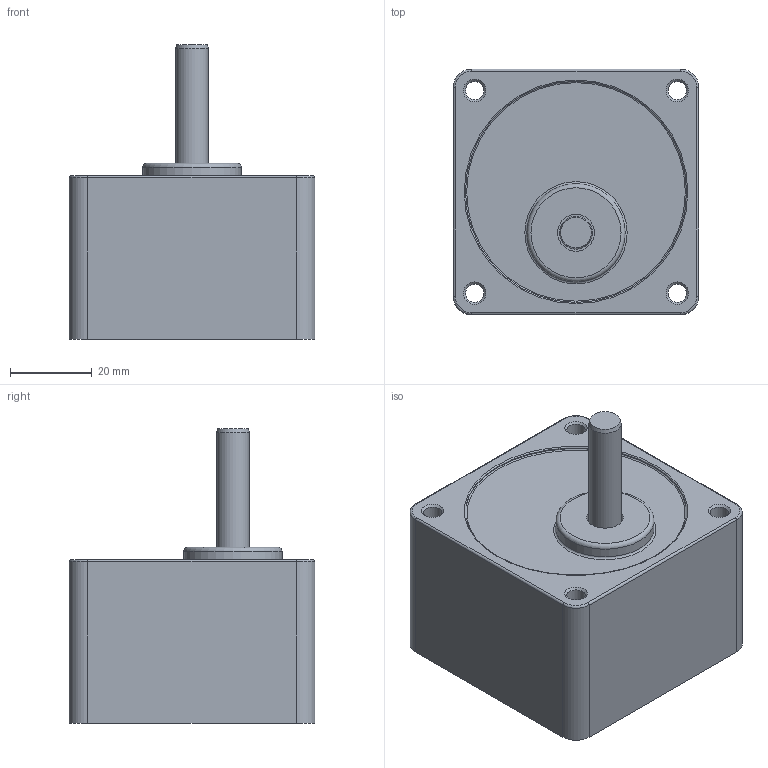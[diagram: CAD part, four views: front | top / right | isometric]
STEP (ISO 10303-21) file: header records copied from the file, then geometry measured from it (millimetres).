
FILE_DESCRIPTION((''),'2;1');
FILE_NAME('\\Spgrnd02\고객배포용도면\3D\01 Standard AC Motor\01 INDUCTION MOTOR\S6I06+S6DA\S6SA20~250.stp','2015-03-24T16:01:07',('smkim'),(''),'Autodesk Inventor 2012','Autodesk Inventor 2012','');
FILE_SCHEMA(('AUTOMOTIVE_DESIGN { 1 0 10303 214 1 1 1 1 }'));
Length unit declared in the file: millimetre
Products named in the file (1): S6SA20~250
Bounding box: 60 x 60 x 72 mm (x, y, z)
Volume: 130887.3 mm3; surface area: 20823 mm2
Topology: 1 solids, 1 shells, 43 faces, 88 edges, 53 vertices
Faces by surface type: cylinder 18, plane 12, torus 8, cone 5
Full cylindrical faces by diameter (mm): 4.5 x4, 6 x1, 8 x1, 9 x1, 24 x1, 53.997 x1, 54 x1
Entity records: 1089 total; most frequent: DIRECTION 206, CARTESIAN_POINT 166, ORIENTED_EDGE 138, AXIS2_PLACEMENT_3D 93, EDGE_LOOP 76, EDGE_CURVE 69, VERTEX_POINT 53, CIRCLE 49
